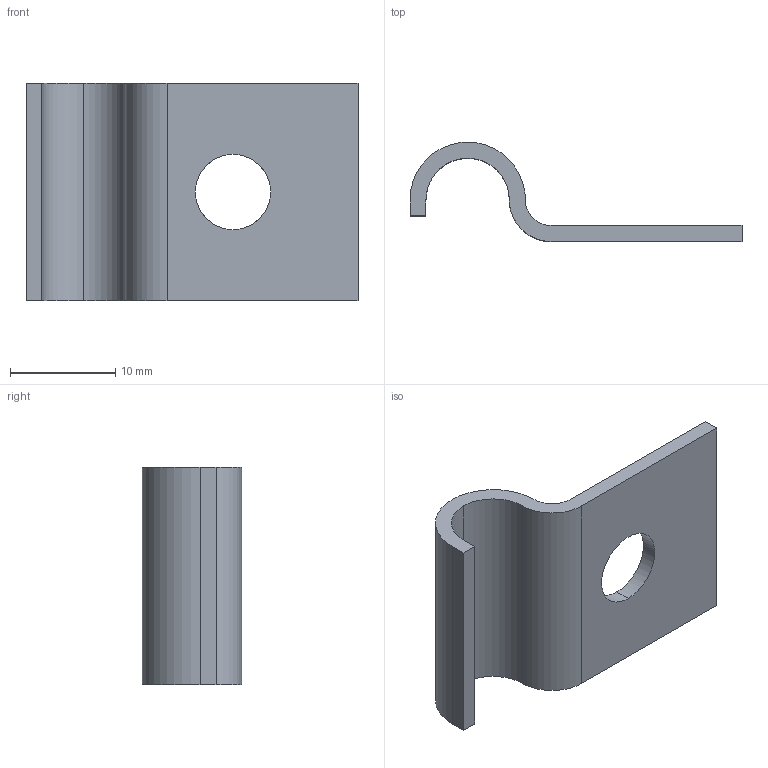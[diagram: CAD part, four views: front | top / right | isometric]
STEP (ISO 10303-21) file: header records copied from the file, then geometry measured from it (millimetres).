
FILE_DESCRIPTION(('TurboCAD Mac Pro'),'Build 980');
FILE_NAME('P2009.stp',' ',(''),(''),'ACIS Interop','IMSI','TurboCAD Mac Pro BY IMSI, INCORPORATED');
FILE_SCHEMA(('automotive_design'));
Length unit declared in the file: inch
Products named in the file (1): 1
Bounding box: 31.52 x 9.43 x 20.64 mm (x, y, z)
Volume: 1177.1 mm3; surface area: 1766.5 mm2
Topology: 1 solids, 1 shells, 18 faces, 48 edges, 32 vertices
Faces by surface type: bspline 10, plane 8
Entity records: 784 total; most frequent: CARTESIAN_POINT 229, ORIENTED_EDGE 96, EDGE_CURVE 48, DIRECTION 46, VERTEX_POINT 32, LINE 28, VECTOR 28, EDGE_LOOP 20
